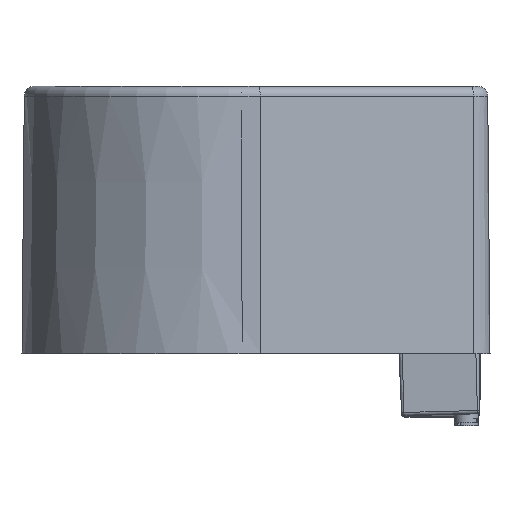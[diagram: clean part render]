
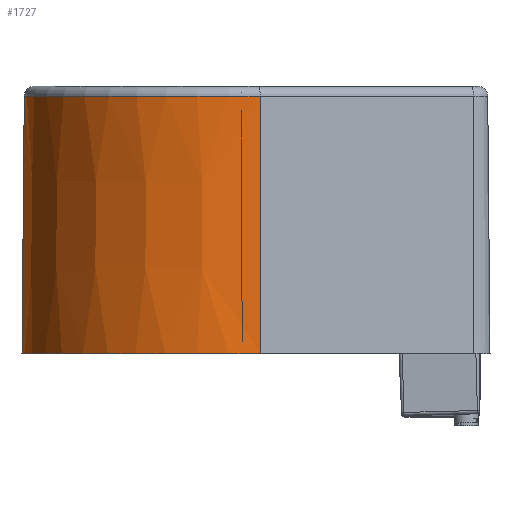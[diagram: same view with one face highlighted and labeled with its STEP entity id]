
A CAD part, left-side view. The second image highlights one B-rep face of the part: STEP entity #1727.
In plain terms, the highlighted conical face has half-angle 0.5 degrees and reference radius 59.664 mm.
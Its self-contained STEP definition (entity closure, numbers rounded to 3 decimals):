
#1727=ADVANCED_FACE('',(#3679),#3681,.T.);
#3679=FACE_BOUND('',#3680,.T.);
#3680=EDGE_LOOP('',(#6254,#6255,#6256,#6257));
#3681=CONICAL_SURFACE('',#3682,59.664,0.009);
#3682=AXIS2_PLACEMENT_3D('',#3683,#3684,#3685);
#3683=CARTESIAN_POINT('',(-42.5,7.5,38.513));
#3684=DIRECTION('',(-0.,-0.,-1.));
#3685=DIRECTION('',(0.,-1.,-0.));
#6254=ORIENTED_EDGE('',*,*,#7016,.F.);
#6255=ORIENTED_EDGE('',*,*,#7017,.F.);
#6256=ORIENTED_EDGE('',*,*,#6980,.T.);
#6257=ORIENTED_EDGE('',*,*,#7015,.T.);
#6980=EDGE_CURVE('',#7407,#7405,#7408,.T.);
#7015=EDGE_CURVE('',#7405,#7465,#7467,.T.);
#7016=EDGE_CURVE('',#7468,#7465,#7469,.T.);
#7017=EDGE_CURVE('',#7407,#7468,#7470,.T.);
#7405=VERTEX_POINT('',#8167);
#7407=VERTEX_POINT('',#8171);
#7408=CIRCLE('',#8172,60.);
#7465=VERTEX_POINT('',#8314);
#7467=LINE('',#8318,#8319);
#7468=VERTEX_POINT('',#8321);
#7469=CIRCLE('',#8322,59.328);
#7470=LINE('',#8326,#8327);
#8167=CARTESIAN_POINT('',(-101.41,-3.884,0.));
#8171=CARTESIAN_POINT('',(-42.5,67.5,0.));
#8172=AXIS2_PLACEMENT_3D('',#8173,#8174,#8175);
#8173=CARTESIAN_POINT('',(-42.5,7.5,0.));
#8174=DIRECTION('',(0.,0.,1.));
#8175=DIRECTION('',(0.,1.,0.));
#8314=CARTESIAN_POINT('',(-100.75,-3.756,77.026));
#8318=CARTESIAN_POINT('',(-101.41,-3.884,0.));
#8319=VECTOR('',#8320,1.);
#8320=DIRECTION('',(0.009,0.002,1.));
#8321=CARTESIAN_POINT('',(-42.5,66.828,77.026));
#8322=AXIS2_PLACEMENT_3D('',#8323,#8324,#8325);
#8323=CARTESIAN_POINT('',(-42.5,7.5,77.026));
#8324=DIRECTION('',(0.,0.,1.));
#8325=DIRECTION('',(0.,1.,0.));
#8326=CARTESIAN_POINT('',(-42.5,67.5,0.));
#8327=VECTOR('',#8328,1.);
#8328=DIRECTION('',(0.,-0.009,1.));
